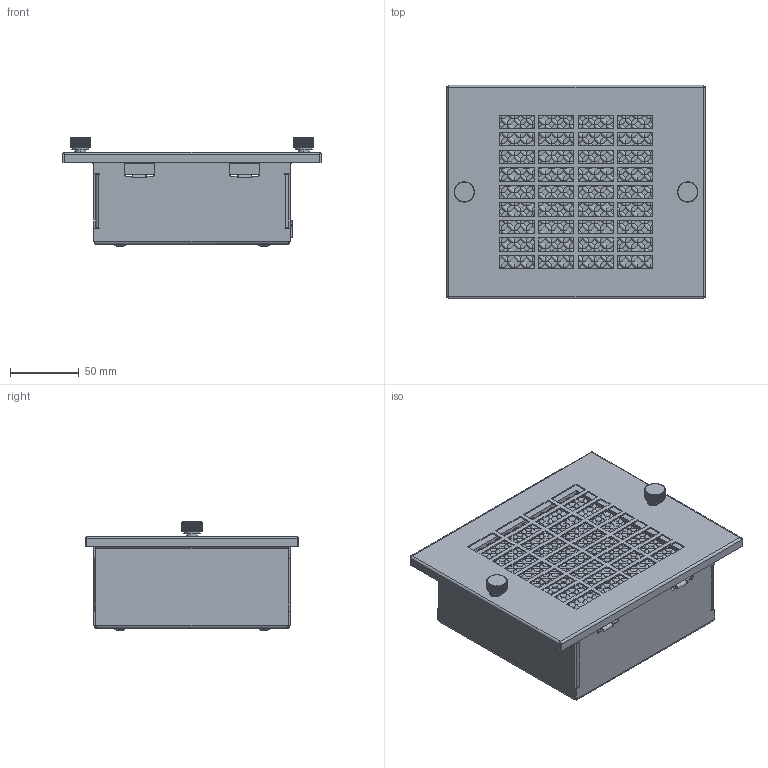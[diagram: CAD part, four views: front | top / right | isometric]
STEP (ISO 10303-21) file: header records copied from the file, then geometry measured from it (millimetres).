
FILE_DESCRIPTION((''),'2;1');
FILE_NAME('SCE-FA44_ASM','2016-01-05T',('mikek'),('SAGINAW CONTROL & ENGINEERING'),'PRO/ENGINEER BY PARAMETRIC TECHNOLOGY CORPORATION, 2012070','PRO/ENGINEER BY PARAMETRIC TECHNOLOGY CORPORATION, 2012070','');
FILE_SCHEMA(('AUTOMOTIVE_DESIGN { 1 0 10303 214 1 1 1 1 }'));
Length unit declared in the file: inch
Products named in the file (16): SCE-FA44-FAN-HOUSING; 100062; SCE-FA44-HOUSING_ASM; FAN-HOUSING-102452; 102452_ASM; 102385; SCE-FA44-FAN-GRILLE; 105060; SCE-FA44-GRILLE_ASM; 102292; 101671; 102597; 102625; 102048; 125342; SCE-FA44_ASM
Assembly tree (24 placements, depth 3):
  SCE-FA44_ASM
    SCE-FA44-HOUSING_ASM
      SCE-FA44-FAN-HOUSING
      100062  x2
    102452_ASM
      FAN-HOUSING-102452
    102385
    SCE-FA44-GRILLE_ASM
      SCE-FA44-FAN-GRILLE
      105060  x4
    102292  x2
    101671  x2
    102597  x4
    102625
    102048
    125342
Bounding box: 187.32 x 154.79 x 78.64 mm (x, y, z)
Volume: 356298.5 mm3; surface area: 296885.2 mm2
Topology: 20 solids, 26 shells, 3945 faces, 10632 edges, 6756 vertices
Faces by surface type: cylinder 2090, plane 1697, bspline 85, torus 56, cone 16, extrusion 1
Entity records: 146035 total; most frequent: CARTESIAN_POINT 58134, ORIENTED_EDGE 19360, DIRECTION 14085, EDGE_CURVE 9692, VERTEX_POINT 6142, VECTOR 5289, LINE 5288, AXIS2_PLACEMENT_3D 4398
